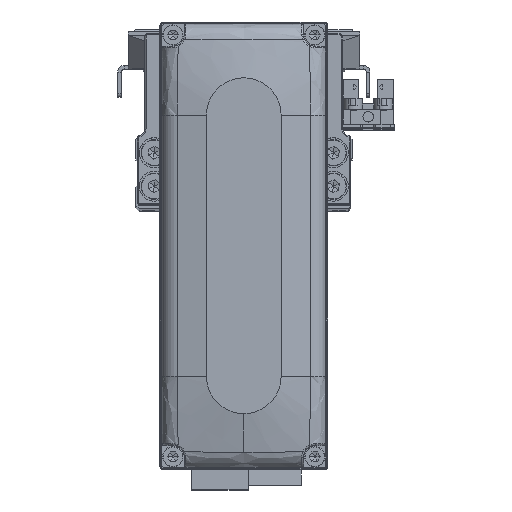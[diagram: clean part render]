
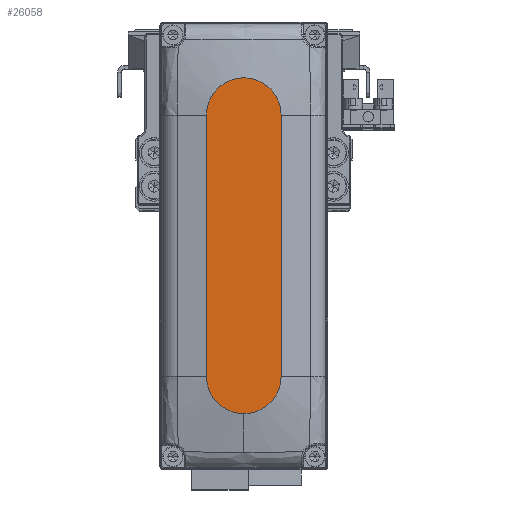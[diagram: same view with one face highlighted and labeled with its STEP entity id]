
A CAD part, top view. The second image highlights one B-rep face of the part: STEP entity #26058.
In plain terms, the highlighted planar face has unit normal (0, 0, 1).
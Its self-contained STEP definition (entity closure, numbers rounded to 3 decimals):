
#303 = ORIENTED_EDGE ( 'NONE', *, *, #15689, .T. ) ;
#954 = DIRECTION ( 'NONE',  ( 0., 0., 1. ) ) ;
#2600 = DIRECTION ( 'NONE',  ( 1., 0., 0. ) ) ;
#5193 = VERTEX_POINT ( 'NONE', #32345 ) ;
#5434 = VECTOR ( 'NONE', #9037, 1000. ) ;
#5798 = PLANE ( 'NONE',  #31096 ) ;
#6404 = ORIENTED_EDGE ( 'NONE', *, *, #22216, .T. ) ;
#6889 = CARTESIAN_POINT ( 'NONE',  ( 35., 0., 28. ) ) ;
#7397 = EDGE_LOOP ( 'NONE', ( #9214, #6404, #16268, #37922, #303 ) ) ;
#7480 = CIRCLE ( 'NONE', #12894, 10. ) ;
#9037 = DIRECTION ( 'NONE',  ( -1., 0., 0. ) ) ;
#9109 = CIRCLE ( 'NONE', #32937, 10. ) ;
#9214 = ORIENTED_EDGE ( 'NONE', *, *, #35828, .T. ) ;
#10731 = AXIS2_PLACEMENT_3D ( 'NONE', #28363, #41391, #12155 ) ;
#11281 = CARTESIAN_POINT ( 'NONE',  ( -35., -10., 28. ) ) ;
#12155 = DIRECTION ( 'NONE',  ( 1., 0., 0. ) ) ;
#12894 = AXIS2_PLACEMENT_3D ( 'NONE', #6889, #19872, #32898 ) ;
#13914 = DIRECTION ( 'NONE',  ( 1., 0., 0. ) ) ;
#15689 = EDGE_CURVE ( 'NONE', #25664, #19234, #7480, .T. ) ;
#16268 = ORIENTED_EDGE ( 'NONE', *, *, #24607, .T. ) ;
#18631 = CARTESIAN_POINT ( 'NONE',  ( 45., 0., 28. ) ) ;
#18773 = CARTESIAN_POINT ( 'NONE',  ( 0., 0., 28. ) ) ;
#19234 = VERTEX_POINT ( 'NONE', #38228 ) ;
#19872 = DIRECTION ( 'NONE',  ( 0., 0., 1. ) ) ;
#22216 = EDGE_CURVE ( 'NONE', #5193, #27479, #9109, .T. ) ;
#22228 = VERTEX_POINT ( 'NONE', #26924 ) ;
#24274 = DIRECTION ( 'NONE',  ( 1., 0., 0. ) ) ;
#24607 = EDGE_CURVE ( 'NONE', #27479, #22228, #40513, .T. ) ;
#25219 = LINE ( 'NONE', #38253, #5434 ) ;
#25664 = VERTEX_POINT ( 'NONE', #18631 ) ;
#26058 = ADVANCED_FACE ( 'NONE', ( #35011 ), #5798, .T. ) ;
#26924 = CARTESIAN_POINT ( 'NONE',  ( 35., -10., 28. ) ) ;
#27479 = VERTEX_POINT ( 'NONE', #29551 ) ;
#28363 = CARTESIAN_POINT ( 'NONE',  ( 35., 0., 28. ) ) ;
#29106 = CIRCLE ( 'NONE', #10731, 10. ) ;
#29551 = CARTESIAN_POINT ( 'NONE',  ( -35., -10., 28. ) ) ;
#30152 = CARTESIAN_POINT ( 'NONE',  ( -35., 0., 28. ) ) ;
#31096 = AXIS2_PLACEMENT_3D ( 'NONE', #18773, #31799, #2600 ) ;
#31799 = DIRECTION ( 'NONE',  ( 0., 0., 1. ) ) ;
#32345 = CARTESIAN_POINT ( 'NONE',  ( -35., 10., 28. ) ) ;
#32898 = DIRECTION ( 'NONE',  ( 1., 0., 0. ) ) ;
#32937 = AXIS2_PLACEMENT_3D ( 'NONE', #30152, #954, #13914 ) ;
#35011 = FACE_OUTER_BOUND ( 'NONE', #7397, .T. ) ;
#35828 = EDGE_CURVE ( 'NONE', #19234, #5193, #25219, .T. ) ;
#37922 = ORIENTED_EDGE ( 'NONE', *, *, #40605, .T. ) ;
#38228 = CARTESIAN_POINT ( 'NONE',  ( 35., 10., 28. ) ) ;
#38253 = CARTESIAN_POINT ( 'NONE',  ( -35., 10., 28. ) ) ;
#40513 = LINE ( 'NONE', #11281, #41936 ) ;
#40605 = EDGE_CURVE ( 'NONE', #22228, #25664, #29106, .T. ) ;
#41391 = DIRECTION ( 'NONE',  ( 0., 0., 1. ) ) ;
#41936 = VECTOR ( 'NONE', #24274, 1000. ) ;
